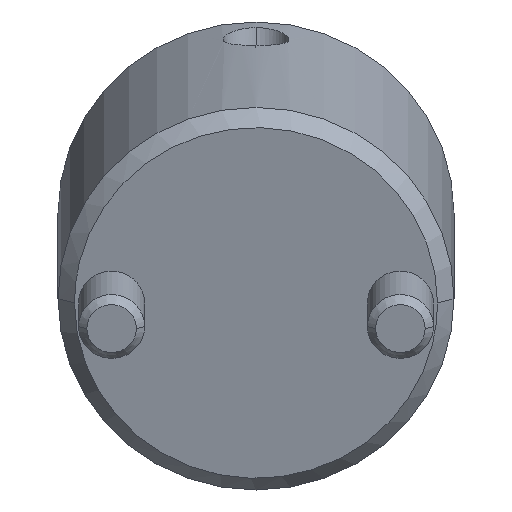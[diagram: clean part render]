
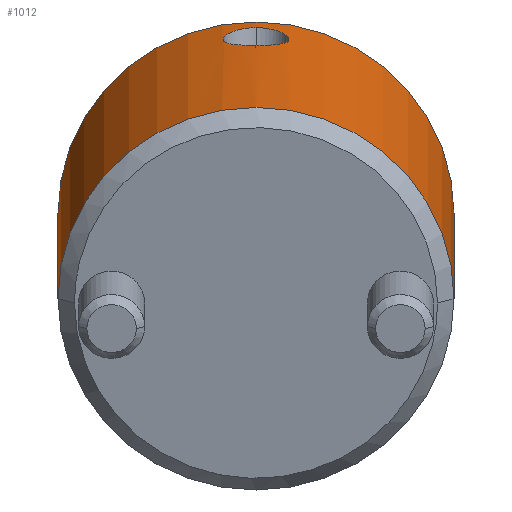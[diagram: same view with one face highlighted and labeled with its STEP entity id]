
A CAD part, front view. The second image highlights one B-rep face of the part: STEP entity #1012.
In plain terms, the highlighted cylindrical face has radius 12 mm (diameter 24 mm), a partial arc.
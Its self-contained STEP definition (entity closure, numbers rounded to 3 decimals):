
#778=CARTESIAN_POINT('Vertex',(0.,12.,1.)) ;
#781=CARTESIAN_POINT('Axis2P3D Location',(0.,0.,1.)) ;
#785=CARTESIAN_POINT('Vertex',(0.,-12.,1.)) ;
#925=CARTESIAN_POINT('Axis2P3D Location',(0.,0.,-1.1)) ;
#930=CARTESIAN_POINT('Line Origine',(0.,12.,-1.1)) ;
#934=CARTESIAN_POINT('Vertex',(0.,12.,21.)) ;
#937=CARTESIAN_POINT('Axis2P3D Location',(0.,0.,21.)) ;
#941=CARTESIAN_POINT('Vertex',(0.,-12.,21.)) ;
#944=CARTESIAN_POINT('Line Origine',(0.,-12.,-1.1)) ;
#956=CARTESIAN_POINT('Control Point',(12.,0.,19.674)) ;
#957=CARTESIAN_POINT('Control Point',(12.,0.342,19.674)) ;
#958=CARTESIAN_POINT('Control Point',(11.988,0.675,19.596)) ;
#959=CARTESIAN_POINT('Control Point',(11.964,0.993,19.44)) ;
#960=CARTESIAN_POINT('Control Point',(11.923,1.377,19.137)) ;
#961=CARTESIAN_POINT('Control Point',(11.885,1.661,18.739)) ;
#962=CARTESIAN_POINT('Control Point',(11.874,1.735,18.615)) ;
#963=CARTESIAN_POINT('Control Point',(11.855,1.861,18.357)) ;
#964=CARTESIAN_POINT('Control Point',(11.842,1.943,18.08)) ;
#965=CARTESIAN_POINT('Control Point',(11.837,1.974,17.937)) ;
#966=CARTESIAN_POINT('Control Point',(11.831,2.01,17.654)) ;
#967=CARTESIAN_POINT('Control Point',(11.832,1.999,17.37)) ;
#968=CARTESIAN_POINT('Control Point',(11.835,1.981,17.229)) ;
#969=CARTESIAN_POINT('Control Point',(11.845,1.924,16.953)) ;
#970=CARTESIAN_POINT('Control Point',(11.861,1.822,16.694)) ;
#971=CARTESIAN_POINT('Control Point',(11.87,1.76,16.57)) ;
#972=CARTESIAN_POINT('Control Point',(11.909,1.492,16.13)) ;
#973=CARTESIAN_POINT('Control Point',(11.956,1.093,15.79)) ;
#974=CARTESIAN_POINT('Control Point',(11.985,0.743,15.618)) ;
#975=CARTESIAN_POINT('Control Point',(12.,0.376,15.533)) ;
#976=CARTESIAN_POINT('Control Point',(12.,0.,15.533)) ;
#977=CARTESIAN_POINT('Vertex',(12.,0.,19.674)) ;
#979=CARTESIAN_POINT('Vertex',(12.,0.,15.533)) ;
#983=CARTESIAN_POINT('Control Point',(12.,0.,15.533)) ;
#984=CARTESIAN_POINT('Control Point',(12.,-0.139,15.533)) ;
#985=CARTESIAN_POINT('Control Point',(11.998,-0.276,15.544)) ;
#986=CARTESIAN_POINT('Control Point',(11.994,-0.413,15.568)) ;
#987=CARTESIAN_POINT('Control Point',(11.982,-0.68,15.638)) ;
#988=CARTESIAN_POINT('Control Point',(11.965,-0.932,15.753)) ;
#989=CARTESIAN_POINT('Control Point',(11.955,-1.053,15.822)) ;
#990=CARTESIAN_POINT('Control Point',(11.933,-1.281,15.979)) ;
#991=CARTESIAN_POINT('Control Point',(11.909,-1.477,16.172)) ;
#992=CARTESIAN_POINT('Control Point',(11.898,-1.566,16.277)) ;
#993=CARTESIAN_POINT('Control Point',(11.864,-1.81,16.618)) ;
#994=CARTESIAN_POINT('Control Point',(11.839,-1.959,17.013)) ;
#995=CARTESIAN_POINT('Control Point',(11.83,-2.013,17.296)) ;
#996=CARTESIAN_POINT('Control Point',(11.829,-2.021,17.726)) ;
#997=CARTESIAN_POINT('Control Point',(11.844,-1.926,18.144)) ;
#998=CARTESIAN_POINT('Control Point',(11.851,-1.883,18.282)) ;
#999=CARTESIAN_POINT('Control Point',(11.869,-1.775,18.549)) ;
#1000=CARTESIAN_POINT('Control Point',(11.89,-1.624,18.795)) ;
#1001=CARTESIAN_POINT('Control Point',(11.902,-1.538,18.912)) ;
#1002=CARTESIAN_POINT('Control Point',(11.938,-1.246,19.247)) ;
#1003=CARTESIAN_POINT('Control Point',(11.972,-0.876,19.494)) ;
#1004=CARTESIAN_POINT('Control Point',(11.991,-0.596,19.613)) ;
#1005=CARTESIAN_POINT('Control Point',(12.,-0.302,19.674)) ;
#1006=CARTESIAN_POINT('Control Point',(12.,0.,19.674)) ;
#782=DIRECTION('Axis2P3D Direction',(0.,0.,1.)) ;
#926=DIRECTION('Axis2P3D Direction',(0.,-0.,1.)) ;
#927=DIRECTION('Axis2P3D XDirection',(0.,-1.,0.)) ;
#931=DIRECTION('Vector Direction',(0.,0.,1.)) ;
#938=DIRECTION('Axis2P3D Direction',(0.,-0.,1.)) ;
#945=DIRECTION('Vector Direction',(0.,0.,1.)) ;
#783=AXIS2_PLACEMENT_3D('Circle Axis2P3D',#781,#782,$) ;
#928=AXIS2_PLACEMENT_3D('Cylinder Axis2P3D',#925,#926,#927) ;
#939=AXIS2_PLACEMENT_3D('Circle Axis2P3D',#937,#938,$) ;
#950=ORIENTED_EDGE('',*,*,#936,.F.) ;
#951=ORIENTED_EDGE('',*,*,#943,.T.) ;
#952=ORIENTED_EDGE('',*,*,#948,.T.) ;
#953=ORIENTED_EDGE('',*,*,#787,.F.) ;
#1009=ORIENTED_EDGE('',*,*,#981,.T.) ;
#1010=ORIENTED_EDGE('',*,*,#1007,.T.) ;
#1011=FACE_BOUND('',#1008,.T.) ;
#932=VECTOR('Line Direction',#931,1.) ;
#946=VECTOR('Line Direction',#945,1.) ;
#1012=ADVANCED_FACE('MANIFOLD_SOLID_BREP #1100',(#954,#1011),#929,.T.) ;
#955=B_SPLINE_CURVE_WITH_KNOTS('',5,(#956,#957,#958,#959,#960,#961,#962,#963,#964,#965,#966,#967,#968,#969,#970,#971,#972,#973,#974,#975,#976),.UNSPECIFIED.,.F.,.U.,(6,3,3,3,3,3,6),(0.,2.418,3.432,4.439,5.429,6.409,9.064),.UNSPECIFIED.) ;
#982=B_SPLINE_CURVE_WITH_KNOTS('',5,(#983,#984,#985,#986,#987,#988,#989,#990,#991,#992,#993,#994,#995,#996,#997,#998,#999,#1000,#1001,#1002,#1003,#1004,#1005,#1006),.UNSPECIFIED.,.F.,.U.,(6,3,3,3,3,3,3,6),(0.,0.981,1.96,2.939,4.919,5.933,6.943,9.071),.UNSPECIFIED.) ;
#784=CIRCLE('generated circle',#783,12.) ;
#940=CIRCLE('generated circle',#939,12.) ;
#929=CYLINDRICAL_SURFACE('generated cylinder',#928,12.) ;
#787=EDGE_CURVE('',#779,#786,#784,.F.) ;
#936=EDGE_CURVE('',#935,#779,#933,.F.) ;
#943=EDGE_CURVE('',#935,#942,#940,.F.) ;
#948=EDGE_CURVE('',#942,#786,#947,.F.) ;
#981=EDGE_CURVE('',#978,#980,#955,.T.) ;
#1007=EDGE_CURVE('',#980,#978,#982,.T.) ;
#949=EDGE_LOOP('',(#950,#951,#952,#953)) ;
#1008=EDGE_LOOP('',(#1009,#1010)) ;
#954=FACE_OUTER_BOUND('',#949,.T.) ;
#933=LINE('Line',#930,#932) ;
#947=LINE('Line',#944,#946) ;
#779=VERTEX_POINT('',#778) ;
#786=VERTEX_POINT('',#785) ;
#935=VERTEX_POINT('',#934) ;
#942=VERTEX_POINT('',#941) ;
#978=VERTEX_POINT('',#977) ;
#980=VERTEX_POINT('',#979) ;
